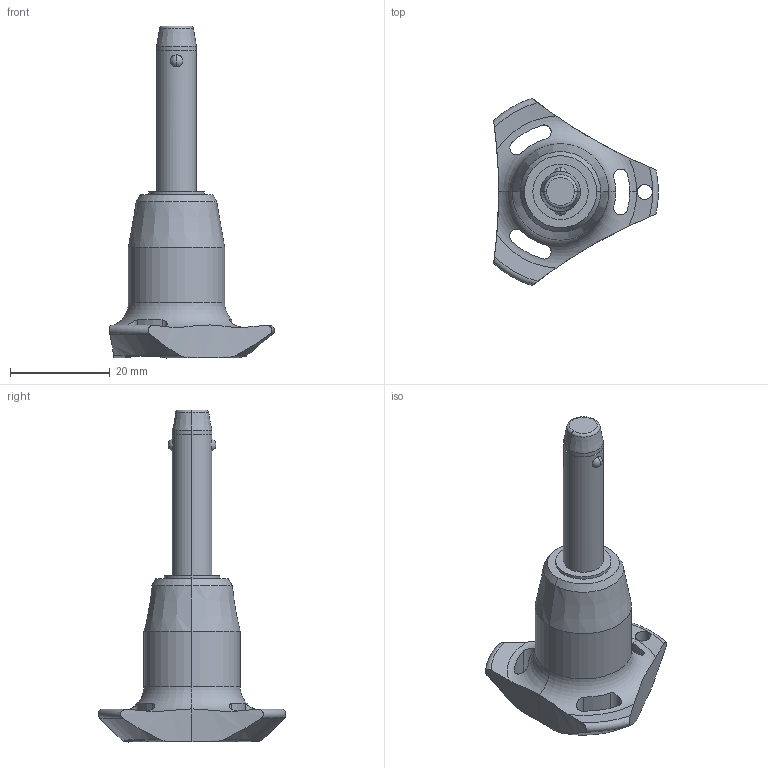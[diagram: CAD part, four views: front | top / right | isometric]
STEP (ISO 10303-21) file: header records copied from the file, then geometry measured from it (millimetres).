
FILE_DESCRIPTION (( 'STEP AP203' ), '1' );
FILE_NAME ('QR1726.M08-025-T.step', '2025-11-13T11:05:40', ( '' ), ( '' ), 'SwSTEP 2.0', 'SolidWorks 2019', '' );
FILE_SCHEMA (( 'CONFIG_CONTROL_DESIGN' ));
Length unit declared in the file: millimetre
Products named in the file (1): QR1726.M08-025-T
Bounding box: 33 x 37.51 x 66.5 mm (x, y, z)
Volume: 11906.6 mm3; surface area: 4683.1 mm2
Topology: 1 solids, 1 shells, 68 faces, 180 edges, 113 vertices
Faces by surface type: cylinder 32, cone 14, torus 11, sphere 6, plane 5
Entity records: 2826 total; most frequent: CARTESIAN_POINT 1086, ORIENTED_EDGE 360, DIRECTION 347, EDGE_CURVE 180, AXIS2_PLACEMENT_3D 154, VERTEX_POINT 113, CIRCLE 85, EDGE_LOOP 75
